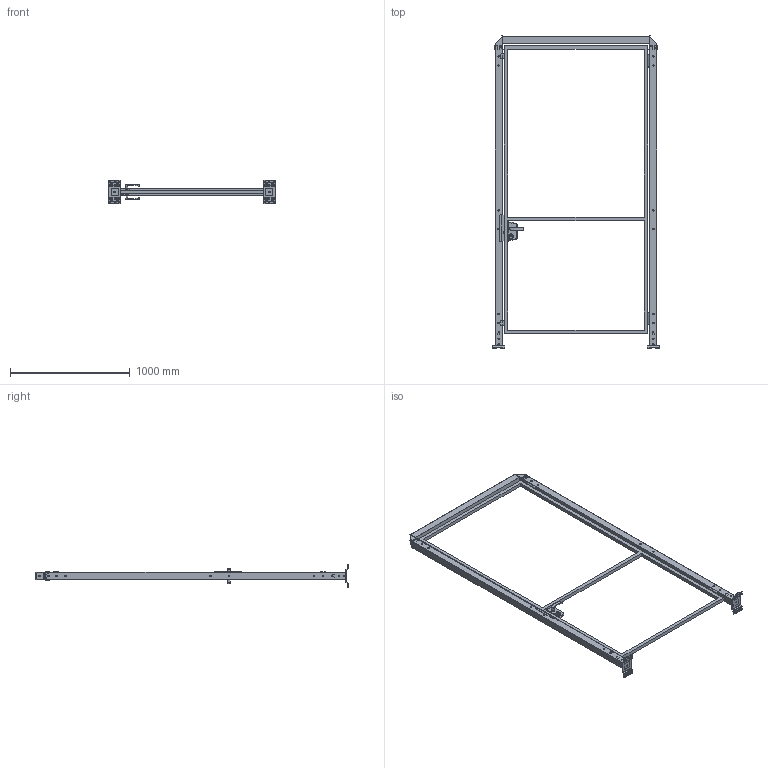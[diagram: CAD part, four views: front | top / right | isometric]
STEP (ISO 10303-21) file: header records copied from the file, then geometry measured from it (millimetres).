
FILE_DESCRIPTION(('STEP AP242'),'1');
FILE_NAME('vfda_bscgd03_12002520.stp','2025-01-31T11:30:13',('TraceParts'),('TraceParts S.A.'),'Spatial InterOp 3D',' ',' ');
FILE_SCHEMA(('AP242_MANAGED_MODEL_BASED_3D_ENGINEERING_MIM_LF {1 0 10303 442 1 1 4}'));
Length unit declared in the file: millimetre
Products named in the file (1): vfda_bscgd03_12002520_1
Bounding box: 1390 x 2601 x 192 mm (x, y, z)
Volume: 10430887.8 mm3; surface area: 4218625 mm2
Topology: 13 solids, 13 shells, 1633 faces, 4343 edges, 2774 vertices
Faces by surface type: plane 807, cylinder 554, bspline 198, cone 46, torus 28
Entity records: 68206 total; most frequent: CARTESIAN_POINT 14828, ORIENTED_EDGE 8686, DIRECTION 7987, EDGE_CURVE 4343, VERTEX_POINT 2774, AXIS2_PLACEMENT_3D 2674, LINE 2639, VECTOR 2639
